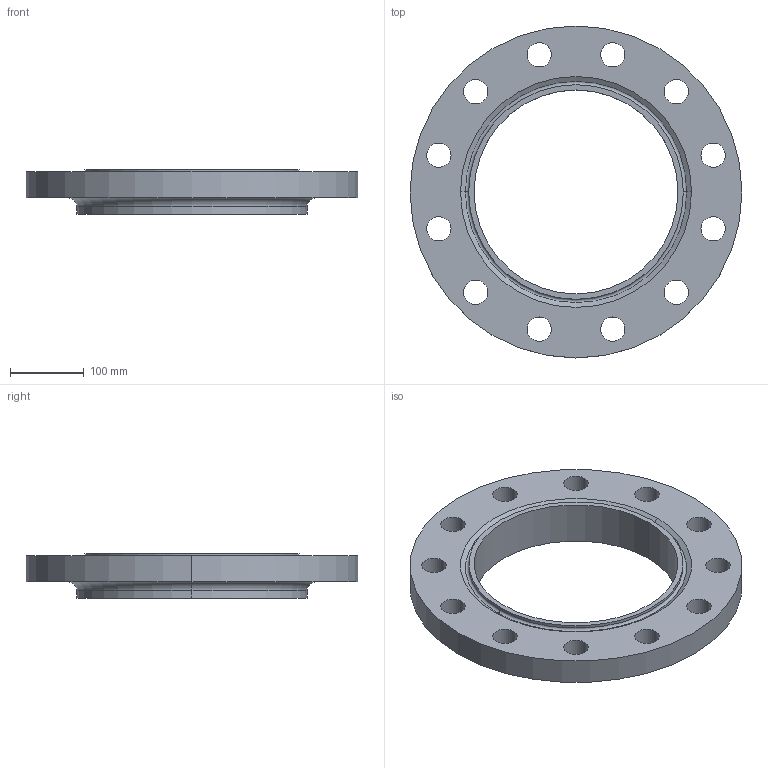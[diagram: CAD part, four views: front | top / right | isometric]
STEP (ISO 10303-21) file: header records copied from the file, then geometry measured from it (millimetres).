
FILE_DESCRIPTION (( 'STEP AP214' ), '1' );
FILE_NAME ('PN40 DN250 Type 12 - Type H Face.STEP', '2019-01-05T16:04:29', ( '' ), ( '' ), 'SwSTEP 2.0', 'SolidWorks 2019', '' );
FILE_SCHEMA (( 'AUTOMOTIVE_DESIGN' ));
Length unit declared in the file: millimetre
Products named in the file (1): PN40 DN250 Type 12 - Type H Face
Bounding box: 450 x 450 x 60 mm (x, y, z)
Volume: 3528427.5 mm3; surface area: 346951.3 mm2
Topology: 1 solids, 1 shells, 42 faces, 108 edges, 70 vertices
Faces by surface type: cylinder 32, torus 4, plane 4, cone 2
Entity records: 1404 total; most frequent: DIRECTION 268, CARTESIAN_POINT 221, ORIENTED_EDGE 216, AXIS2_PLACEMENT_3D 117, EDGE_CURVE 108, CIRCLE 74, VERTEX_POINT 70, EDGE_LOOP 70
